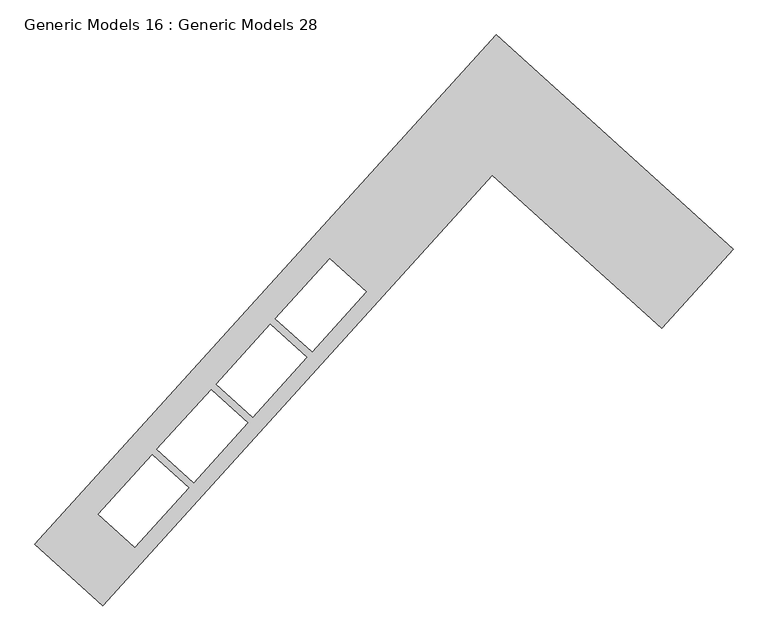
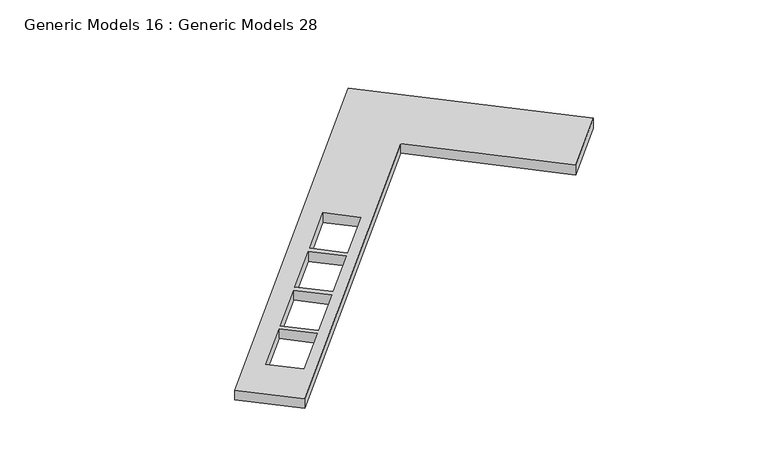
"""IFC4 building model written with IfcOpenShell, lengths in millimetres: proxy geometry, Generic Models 16 : Generic Models 28."""

from ifc_helpers import new_model, si_unit, frame, origin, place, context, project, spatial, polyline, outline, extrude, source, transform, mapped, element, save


def generic_models_16_generic_models_28_3fcabb3a(model_context):
    return source(origin(), model_context, "Body", "SweptSolid", [
        extrude(outline(polyline([(-6475.844779, -1913.8349322), (-4919.18415, -3323.3495821), (-5389.0264226, -3842.2409377), (-6500.9230324, -2835.4482357), (-9062.7262173, -5664.6903134), (-9507.4902363, -5261.9683655), (-6475.844779, -1913.8349322)]), holes=[polyline([(-8735.9879574, -4671.437794), (-9091.7256781, -5064.3126775), (-8850.8118344, -5282.4537326), (-8495.0741138, -4889.5788491), (-8735.9879574, -4671.437794)]), polyline([(-8350.0460907, -4245.205609), (-8705.7838113, -4638.0804925), (-8464.8699677, -4856.2215476), (-8109.132247, -4463.3466641), (-8350.0460907, -4245.205609)]), polyline([(-7960.7482077, -3815.2670572), (-8316.4859284, -4208.1419407), (-8075.5720847, -4426.2829959), (-7719.8343641, -4033.4081123), (-7960.7482077, -3815.2670572)]), polyline([(-7571.0090466, -3384.8411601), (-7926.7467673, -3777.7160437), (-7685.8329236, -3995.8570988), (-7330.0952029, -3602.9822153), (-7571.0090466, -3384.8411601)])]), frame((0.0, 0.0, 800.0), z_axis=(0.0, 0.0, 1.0), x_axis=(1.0, 0.0, 0.0)), (0.0, 0.0, 1.0), 100.0),
    ])


if __name__ == "__main__":
    model = new_model("IFC4")
    model_context = context("Model", 3, world=origin())
    ifc_project = project(units=[si_unit("LENGTHUNIT", "METRE", prefix="MILLI")], contexts=[model_context])
    site = spatial("IfcSite", under=ifc_project)
    building = spatial("IfcBuilding", under=site)
    placement = place(None, origin())
    generic_models_16_generic_models_28_shape = generic_models_16_generic_models_28_3fcabb3a(model_context)
    element("IfcBuildingElementProxy", 1, Name="Generic Models 16 : Generic Models 28", ObjectType="Generic Models 16 : Generic Models 28", at=placement, inside=building, context=model_context, shape_type="MappedRepresentation", body=[
        mapped(generic_models_16_generic_models_28_shape, transform((0.0, 0.0, 0.0), x_axis=(1.0, 0.0, 0.0), y_axis=(0.0, 1.0, 0.0), z_axis=(0.0, 0.0, 1.0))),
    ])
    save(model, "model.ifc")
